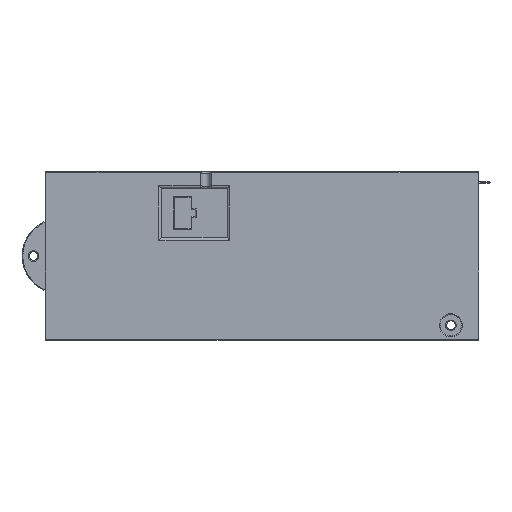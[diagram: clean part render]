
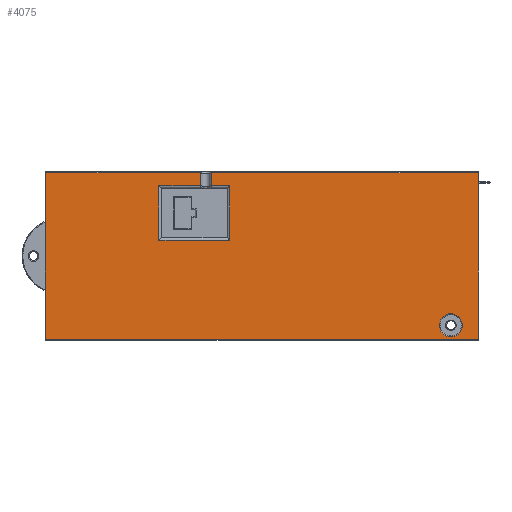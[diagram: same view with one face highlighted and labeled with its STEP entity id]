
A CAD part, top view. The second image highlights one B-rep face of the part: STEP entity #4075.
In plain terms, the highlighted planar face has unit normal (0, 0, 1).
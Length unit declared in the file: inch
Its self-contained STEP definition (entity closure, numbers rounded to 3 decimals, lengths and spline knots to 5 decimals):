
#9 = ORIENTED_EDGE ( 'NONE', *, *, #4665, .F. ) ;
#17 = VECTOR ( 'NONE', #4960, 39.37008 ) ;
#20 = ORIENTED_EDGE ( 'NONE', *, *, #3498, .T. ) ;
#77 = CARTESIAN_POINT ( 'NONE',  ( -1.47638, 1.98819, 1.5748 ) ) ;
#199 = CARTESIAN_POINT ( 'NONE',  ( -1.47638, -2.00787, 1.5748 ) ) ;
#269 = AXIS2_PLACEMENT_3D ( 'NONE', #3636, #1049, #4076 ) ;
#372 = DIRECTION ( 'NONE',  ( 0., 1., 0. ) ) ;
#421 = LINE ( 'NONE', #199, #17 ) ;
#497 = ORIENTED_EDGE ( 'NONE', *, *, #5091, .F. ) ;
#501 = EDGE_LOOP ( 'NONE', ( #1192, #4790, #1278, #497, #9, #3995, #2518, #5616, #2841, #559, #3676, #1790 ) ) ;
#547 = VERTEX_POINT ( 'NONE', #4683 ) ;
#559 = ORIENTED_EDGE ( 'NONE', *, *, #3167, .T. ) ;
#602 = VERTEX_POINT ( 'NONE', #4234 ) ;
#665 = EDGE_CURVE ( 'NONE', #3808, #3592, #3531, .T. ) ;
#789 = LINE ( 'NONE', #3445, #2078 ) ;
#801 = AXIS2_PLACEMENT_3D ( 'NONE', #4348, #1756, #4803 ) ;
#813 = EDGE_CURVE ( 'NONE', #3567, #1678, #2845, .T. ) ;
#910 = EDGE_CURVE ( 'NONE', #1965, #547, #3319, .T. ) ;
#927 = CARTESIAN_POINT ( 'NONE',  ( -5.17717, 0.37402, 1.5748 ) ) ;
#969 = VERTEX_POINT ( 'NONE', #77 ) ;
#1035 = DIRECTION ( 'NONE',  ( 1., 0., 0. ) ) ;
#1049 = DIRECTION ( 'NONE',  ( 0., 0., -1. ) ) ;
#1100 = CARTESIAN_POINT ( 'NONE',  ( -0.76772, -2.00787, 1.5748 ) ) ;
#1192 = ORIENTED_EDGE ( 'NONE', *, *, #5401, .T. ) ;
#1207 = LINE ( 'NONE', #4020, #4389 ) ;
#1217 = LINE ( 'NONE', #1321, #5559 ) ;
#1247 = LINE ( 'NONE', #5134, #3413 ) ;
#1278 = ORIENTED_EDGE ( 'NONE', *, *, #1911, .T. ) ;
#1319 = CIRCLE ( 'NONE', #269, 0.27559 ) ;
#1321 = CARTESIAN_POINT ( 'NONE',  ( -5.17717, 1.67323, 1.5748 ) ) ;
#1340 = PLANE ( 'NONE',  #801 ) ;
#1369 = CARTESIAN_POINT ( 'NONE',  ( 4.50787, -1.65354, 1.5748 ) ) ;
#1410 = DIRECTION ( 'NONE',  ( 1., 0., 0. ) ) ;
#1459 = EDGE_CURVE ( 'NONE', #5301, #1592, #1319, .T. ) ;
#1561 = EDGE_LOOP ( 'NONE', ( #20, #4373 ) ) ;
#1592 = VERTEX_POINT ( 'NONE', #2397 ) ;
#1609 = CARTESIAN_POINT ( 'NONE',  ( 4.23228, -1.65354, 1.5748 ) ) ;
#1678 = VERTEX_POINT ( 'NONE', #2928 ) ;
#1694 = VECTOR ( 'NONE', #3449, 39.37008 ) ;
#1716 = EDGE_CURVE ( 'NONE', #2132, #3808, #1247, .T. ) ;
#1756 = DIRECTION ( 'NONE',  ( 0., 0., 1. ) ) ;
#1786 = DIRECTION ( 'NONE',  ( 1., 0., 0. ) ) ;
#1790 = ORIENTED_EDGE ( 'NONE', *, *, #4171, .T. ) ;
#1867 = LINE ( 'NONE', #5571, #5069 ) ;
#1911 = EDGE_CURVE ( 'NONE', #1678, #969, #421, .T. ) ;
#1965 = VERTEX_POINT ( 'NONE', #2387 ) ;
#1998 = CARTESIAN_POINT ( 'NONE',  ( -5.17717, -1.98819, 1.5748 ) ) ;
#2078 = VECTOR ( 'NONE', #3004, 39.37008 ) ;
#2132 = VERTEX_POINT ( 'NONE', #3544 ) ;
#2201 = CARTESIAN_POINT ( 'NONE',  ( -1.20079, -2.00787, 1.5748 ) ) ;
#2311 = CARTESIAN_POINT ( 'NONE',  ( -5.17717, 1.98819, 1.5748 ) ) ;
#2387 = CARTESIAN_POINT ( 'NONE',  ( -1.20079, 1.98819, 1.5748 ) ) ;
#2397 = CARTESIAN_POINT ( 'NONE',  ( 4.78346, -1.65354, 1.5748 ) ) ;
#2445 = VERTEX_POINT ( 'NONE', #2604 ) ;
#2518 = ORIENTED_EDGE ( 'NONE', *, *, #1716, .F. ) ;
#2534 = DIRECTION ( 'NONE',  ( 0., -1., 0. ) ) ;
#2604 = CARTESIAN_POINT ( 'NONE',  ( -5.15748, 1.98819, 1.5748 ) ) ;
#2651 = VERTEX_POINT ( 'NONE', #3199 ) ;
#2770 = EDGE_CURVE ( 'NONE', #1965, #2132, #5564, .T. ) ;
#2841 = ORIENTED_EDGE ( 'NONE', *, *, #910, .T. ) ;
#2845 = LINE ( 'NONE', #5620, #1694 ) ;
#2905 = CARTESIAN_POINT ( 'NONE',  ( -2.46063, 0.37402, 1.5748 ) ) ;
#2928 = CARTESIAN_POINT ( 'NONE',  ( -1.47638, 1.67323, 1.5748 ) ) ;
#3004 = DIRECTION ( 'NONE',  ( 0., 1., 0. ) ) ;
#3166 = FACE_OUTER_BOUND ( 'NONE', #501, .T. ) ;
#3167 = EDGE_CURVE ( 'NONE', #547, #2651, #1217, .T. ) ;
#3199 = CARTESIAN_POINT ( 'NONE',  ( -0.76772, 1.67323, 1.5748 ) ) ;
#3302 = LINE ( 'NONE', #1100, #5484 ) ;
#3319 = LINE ( 'NONE', #2201, #3733 ) ;
#3413 = VECTOR ( 'NONE', #2534, 39.37008 ) ;
#3445 = CARTESIAN_POINT ( 'NONE',  ( -5.15748, -2.00787, 1.5748 ) ) ;
#3449 = DIRECTION ( 'NONE',  ( 1., 0., 0. ) ) ;
#3498 = EDGE_CURVE ( 'NONE', #1592, #5301, #4943, .T. ) ;
#3528 = DIRECTION ( 'NONE',  ( -1., 0., 0. ) ) ;
#3531 = LINE ( 'NONE', #1998, #3667 ) ;
#3544 = CARTESIAN_POINT ( 'NONE',  ( 5.15748, 1.98819, 1.5748 ) ) ;
#3567 = VERTEX_POINT ( 'NONE', #4406 ) ;
#3592 = VERTEX_POINT ( 'NONE', #5324 ) ;
#3636 = CARTESIAN_POINT ( 'NONE',  ( 4.50787, -1.65354, 1.5748 ) ) ;
#3667 = VECTOR ( 'NONE', #3757, 39.37008 ) ;
#3676 = ORIENTED_EDGE ( 'NONE', *, *, #5586, .T. ) ;
#3724 = CARTESIAN_POINT ( 'NONE',  ( 5.15748, -1.98819, 1.5748 ) ) ;
#3733 = VECTOR ( 'NONE', #5252, 39.37008 ) ;
#3757 = DIRECTION ( 'NONE',  ( -1., 0., 0. ) ) ;
#3759 = AXIS2_PLACEMENT_3D ( 'NONE', #1369, #4388, #1786 ) ;
#3789 = VECTOR ( 'NONE', #3528, 39.37008 ) ;
#3808 = VERTEX_POINT ( 'NONE', #3724 ) ;
#3904 = DIRECTION ( 'NONE',  ( 1., 0., 0. ) ) ;
#3995 = ORIENTED_EDGE ( 'NONE', *, *, #665, .F. ) ;
#4020 = CARTESIAN_POINT ( 'NONE',  ( -5.17717, 1.98819, 1.5748 ) ) ;
#4075 = ADVANCED_FACE ( 'NONE', ( #3166, #5349 ), #1340, .T. ) ;
#4076 = DIRECTION ( 'NONE',  ( 1., 0., 0. ) ) ;
#4128 = DIRECTION ( 'NONE',  ( 0., -1., 0. ) ) ;
#4171 = EDGE_CURVE ( 'NONE', #602, #5318, #5213, .T. ) ;
#4234 = CARTESIAN_POINT ( 'NONE',  ( -0.76772, 0.37402, 1.5748 ) ) ;
#4348 = CARTESIAN_POINT ( 'NONE',  ( -5.17717, -2.00787, 1.5748 ) ) ;
#4373 = ORIENTED_EDGE ( 'NONE', *, *, #1459, .T. ) ;
#4388 = DIRECTION ( 'NONE',  ( 0., 0., -1. ) ) ;
#4389 = VECTOR ( 'NONE', #1410, 39.37008 ) ;
#4403 = VECTOR ( 'NONE', #1035, 39.37008 ) ;
#4406 = CARTESIAN_POINT ( 'NONE',  ( -2.46063, 1.67323, 1.5748 ) ) ;
#4665 = EDGE_CURVE ( 'NONE', #3592, #2445, #789, .T. ) ;
#4683 = CARTESIAN_POINT ( 'NONE',  ( -1.20079, 1.67323, 1.5748 ) ) ;
#4790 = ORIENTED_EDGE ( 'NONE', *, *, #813, .T. ) ;
#4803 = DIRECTION ( 'NONE',  ( 1., 0., 0. ) ) ;
#4943 = CIRCLE ( 'NONE', #3759, 0.27559 ) ;
#4960 = DIRECTION ( 'NONE',  ( 0., 1., 0. ) ) ;
#5069 = VECTOR ( 'NONE', #372, 39.37008 ) ;
#5091 = EDGE_CURVE ( 'NONE', #2445, #969, #1207, .T. ) ;
#5134 = CARTESIAN_POINT ( 'NONE',  ( 5.15748, -2.00787, 1.5748 ) ) ;
#5213 = LINE ( 'NONE', #927, #3789 ) ;
#5252 = DIRECTION ( 'NONE',  ( 0., -1., 0. ) ) ;
#5301 = VERTEX_POINT ( 'NONE', #1609 ) ;
#5318 = VERTEX_POINT ( 'NONE', #2905 ) ;
#5324 = CARTESIAN_POINT ( 'NONE',  ( -5.15748, -1.98819, 1.5748 ) ) ;
#5349 = FACE_BOUND ( 'NONE', #1561, .T. ) ;
#5401 = EDGE_CURVE ( 'NONE', #5318, #3567, #1867, .T. ) ;
#5484 = VECTOR ( 'NONE', #4128, 39.37008 ) ;
#5559 = VECTOR ( 'NONE', #3904, 39.37008 ) ;
#5564 = LINE ( 'NONE', #2311, #4403 ) ;
#5571 = CARTESIAN_POINT ( 'NONE',  ( -2.46063, -2.00787, 1.5748 ) ) ;
#5586 = EDGE_CURVE ( 'NONE', #2651, #602, #3302, .T. ) ;
#5616 = ORIENTED_EDGE ( 'NONE', *, *, #2770, .F. ) ;
#5620 = CARTESIAN_POINT ( 'NONE',  ( -5.17717, 1.67323, 1.5748 ) ) ;
